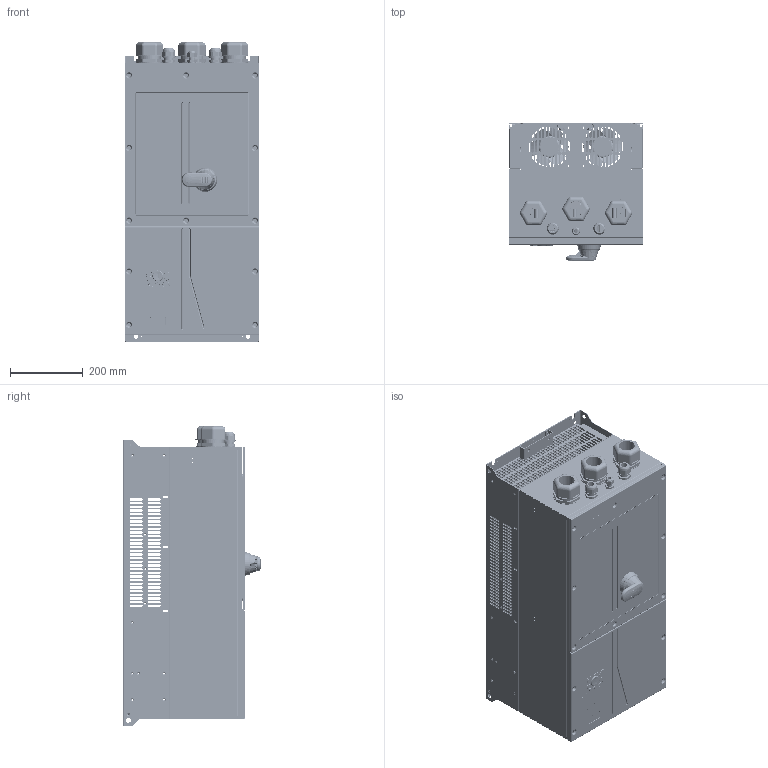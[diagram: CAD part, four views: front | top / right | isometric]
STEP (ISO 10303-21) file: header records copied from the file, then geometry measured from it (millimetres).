
FILE_DESCRIPTION((''),'2;1');
FILE_NAME('GD350-110G-45-AS_ASM','2021-08-20T15:58:03',('Administrator'),(''),'CREO PARAMETRIC BY PTC INC, 2019080','CREO PARAMETRIC BY PTC INC, 2019080','');
FILE_SCHEMA(('CONFIG_CONTROL_DESIGN'));
Products named in the file (131): 80310596; YMD-55-0D8-SL; 80310596_ASM; 80482931; S-M4-ZC; 80482931_ASM; 80482935; 80482935_ASM; GB12617_4_4X10_SL; 61210512_ASM; 80482936; NZ-M8-SL; 80482936_ASM; 80482936SY_ASM; 41060148_ASM; 80340240_ASM; 80385948_ASM; 80386375; 80386375_ASM; 80383278; 61061547_ASM; 80310597_ASM; 61061546_ASM; 80410471; FH-M3-10-ZC; 80410471_ASM; 61761386_ASM; 61761386SY; 61761386SY_ASM; 80410470; 80410470_ASM; 80386379; 61761385_ASM; 61761385SY; 61761385SY_ASM; 86870105; 41060146_ASM; 80340241; BS-M5-12; 80340241_ASM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
Assembly tree (256 placements, depth 6):
  GD350-110G-45-AS_ASM
    41060146_ASM
      41060148_ASM
        61210512_ASM
          80310596_ASM
            80310596
            YMD-55-0D8-SL  x2
          80482931_ASM
            80482931
            S-M4-ZC  x8
          80482935_ASM
            80482935
            YMD-55-0D8-SL  x2
          GB12617_4_4X10_SL  x6
        80482936SY_ASM
          80482936_ASM
            80482936
            NZ-M8-SL  x2
        GB12617_4_4X10_SL  x4
      61061547_ASM
        80340240_ASM
        80385948_ASM  x4
        80386375_ASM  x5
          80386375
          S-M4-ZC
        80383278
      61061546_ASM
        80310597_ASM
      61761386SY_ASM
        61761386_ASM
          80410471_ASM
            80410471
            FH-M3-10-ZC  x3
        61761386SY
      61761385SY_ASM
        61761385_ASM
          80410470_ASM
            80410470
          80386379  x2
        61761385SY
      86870105
    41060149_ASM
      41060148_ASM
        61210512_ASM
          80310596_ASM
            80310596
            YMD-55-0D8-SL  x2
          80482931_ASM
            80482931
            S-M4-ZC  x8
          80482935_ASM
            80482935
            YMD-55-0D8-SL  x2
          GB12617_4_4X10_SL  x6
        80482936SY_ASM
          80482936_ASM
            80482936
            NZ-M8-SL  x2
        GB12617_4_4X10_SL  x4
      61061548_ASM
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Bounding box: 370 x 380 x 825.3 mm (x, y, z)
Volume: 6726426.8 mm3; surface area: 7431077.7 mm2
Topology: 241 solids, 253 shells, 25622 faces, 67399 edges, 43242 vertices
Faces by surface type: plane 17387, cylinder 5270, cone 1634, torus 720, bspline 438, extrusion 70, sphere 55, revolution 48
Entity records: 331450 total; most frequent: CARTESIAN_POINT 81323, DIRECTION 51555, ORIENTED_EDGE 51182, EDGE_CURVE 25599, VECTOR 17275, LINE 17219, AXIS2_PLACEMENT_3D 17124, VERTEX_POINT 16191
